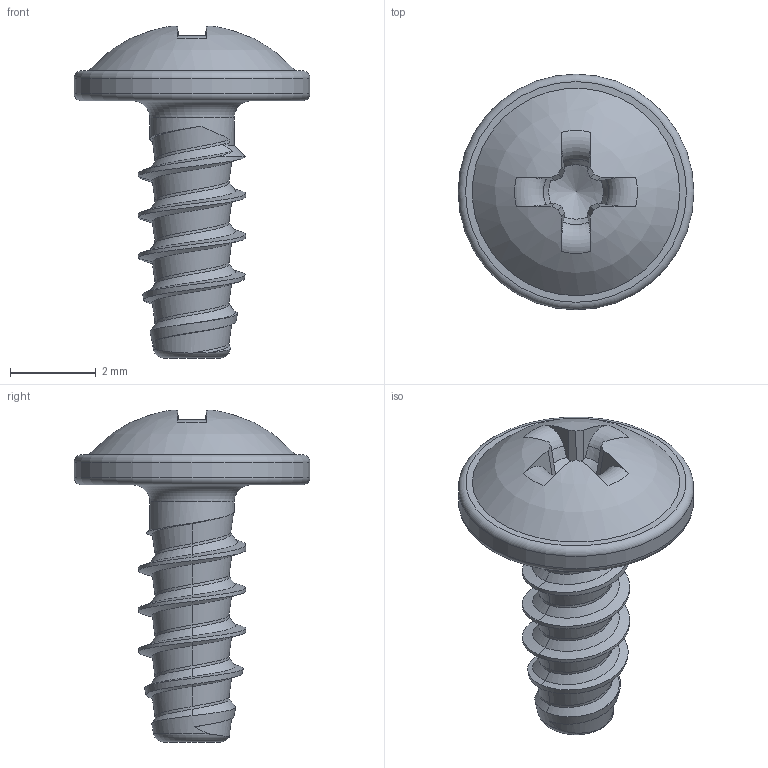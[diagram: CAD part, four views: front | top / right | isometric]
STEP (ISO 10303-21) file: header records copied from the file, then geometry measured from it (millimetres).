
FILE_DESCRIPTION(/* description */ (''),/* implementation_level */ '2;1');
FILE_NAME(/* name */ 'KN6031-STSplus-25x6-H1.step',/* time_stamp */ '2017-09-29T13:00:32+02:00',/* author */ (''),/* organization */ (''),/* preprocessor_version */ 'ST-DEVELOPER v16',/* originating_system */ 'SIEMENS PLM Software NX 10.0',/* authorisation */ '');
FILE_SCHEMA (('AUTOMOTIVE_DESIGN { 1 0 10303 214 3 1 1 1 }'));
Length unit declared in the file: millimetre
Products named in the file (1): KN6031-STSplus-25x6-H1
Bounding box: 5.5 x 5.5 x 7.75 mm (x, y, z)
Volume: 43.3 mm3; surface area: 110.7 mm2
Topology: 1 solids, 1 shells, 63 faces, 169 edges, 109 vertices
Faces by surface type: bspline 24, plane 19, torus 8, cone 7, cylinder 4, sphere 1
Full cylindrical faces by diameter (mm): 1.97 x1, 5.5 x1
Entity records: 3461 total; most frequent: CARTESIAN_POINT 2133, ORIENTED_EDGE 310, DIRECTION 192, EDGE_CURVE 155, VERTEX_POINT 104, B_SPLINE_CURVE_WITH_KNOTS 83, AXIS2_PLACEMENT_3D 80, EDGE_LOOP 72
